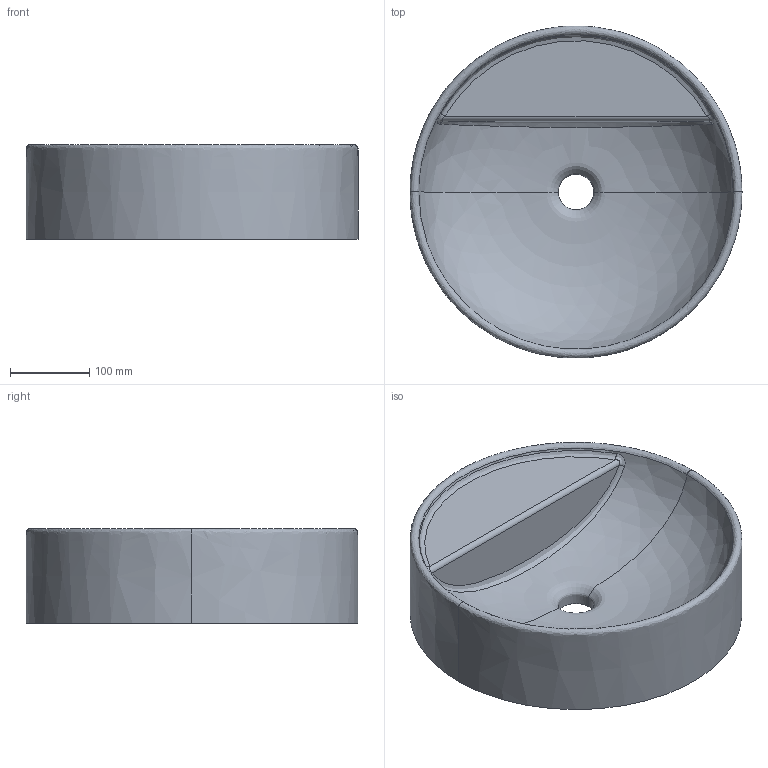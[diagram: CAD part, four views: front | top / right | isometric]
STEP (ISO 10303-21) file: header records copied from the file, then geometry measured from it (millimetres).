
FILE_DESCRIPTION(/* description */ (''),/* implementation_level */ '2;1');
FILE_NAME(/* name */ 'MODD42~2',/* time_stamp */ '2023-11-12T11:43:02+01:00',/* author */ (''),/* organization */ (''),/* preprocessor_version */ 'ST-DEVELOPER v16.5',/* originating_system */ '',/* authorisation */ '');
FILE_SCHEMA (('CONFIG_CONTROL_DESIGN'));
Length unit declared in the file: millimetre
Products named in the file (1): Document
Bounding box: 420 x 419.64 x 120 mm (x, y, z)
Volume: 9548690.6 mm3; surface area: 483128.2 mm2
Topology: 1 solids, 1 shells, 13 faces, 26 edges, 14 vertices
Faces by surface type: bspline 10, plane 2, cylinder 1
Entity records: 1034 total; most frequent: CARTESIAN_POINT 797, ORIENTED_EDGE 52, EDGE_CURVE 26, EDGE_LOOP 14, VERTEX_POINT 14, ADVANCED_FACE 13, FACE_OUTER_BOUND 13, ORGANIZATION 7
